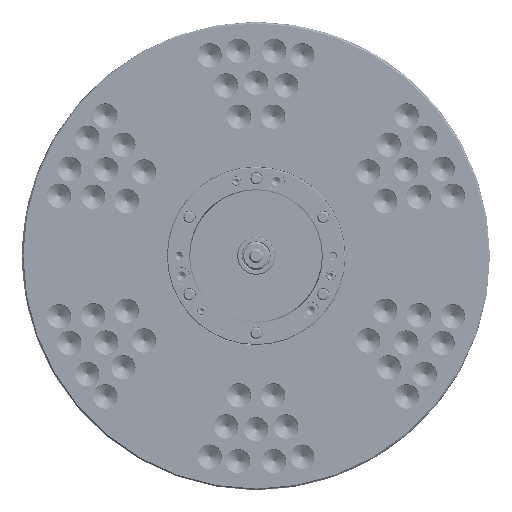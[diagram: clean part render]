
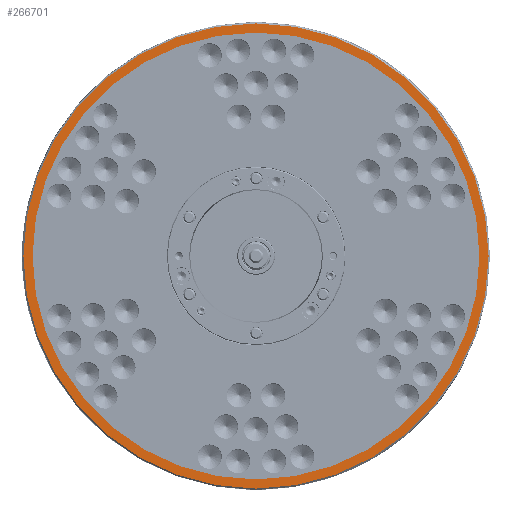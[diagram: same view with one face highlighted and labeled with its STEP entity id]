
A CAD part, left-side view. The second image highlights one B-rep face of the part: STEP entity #266701.
In plain terms, the highlighted planar face has unit normal (-1, 0, 0).
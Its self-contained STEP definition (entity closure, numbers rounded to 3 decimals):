
#12125 = EDGE_CURVE ( 'NONE', #15846, #85097, #124001, .T. ) ;
#15846 = VERTEX_POINT ( 'NONE', #209918 ) ;
#20540 = EDGE_CURVE ( 'NONE', #85097, #15846, #128362, .T. ) ;
#26814 = DIRECTION ( 'NONE',  ( 0., 0., 1. ) ) ;
#27767 = AXIS2_PLACEMENT_3D ( 'NONE', #33984, #357765, #210099 ) ;
#29655 = PLANE ( 'NONE',  #100904 ) ;
#33984 = CARTESIAN_POINT ( 'NONE',  ( -127., 0., 0. ) ) ;
#38895 = DIRECTION ( 'NONE',  ( -1., 0., 0. ) ) ;
#55942 = DIRECTION ( 'NONE',  ( -1., 0., 0. ) ) ;
#59927 = EDGE_CURVE ( 'NONE', #213263, #201382, #251319, .T. ) ;
#61008 = ORIENTED_EDGE ( 'NONE', *, *, #59927, .T. ) ;
#61808 = DIRECTION ( 'NONE',  ( 0., 0., -1. ) ) ;
#81712 = ORIENTED_EDGE ( 'NONE', *, *, #20540, .F. ) ;
#85097 = VERTEX_POINT ( 'NONE', #227856 ) ;
#96365 = CARTESIAN_POINT ( 'NONE',  ( -127., 0., -497. ) ) ;
#100904 = AXIS2_PLACEMENT_3D ( 'NONE', #116738, #118639, #61808 ) ;
#112992 = FACE_BOUND ( 'NONE', #170181, .T. ) ;
#116738 = CARTESIAN_POINT ( 'NONE',  ( -127., 497., 0. ) ) ;
#118226 = CIRCLE ( 'NONE', #136324, 497. ) ;
#118639 = DIRECTION ( 'NONE',  ( 1., 0., 0. ) ) ;
#124001 = CIRCLE ( 'NONE', #245135, 477.5 ) ;
#128362 = CIRCLE ( 'NONE', #213304, 477.5 ) ;
#134797 = DIRECTION ( 'NONE',  ( -1., 0., 0. ) ) ;
#136324 = AXIS2_PLACEMENT_3D ( 'NONE', #146734, #55942, #347558 ) ;
#146734 = CARTESIAN_POINT ( 'NONE',  ( -127., 0., 0. ) ) ;
#161848 = CARTESIAN_POINT ( 'NONE',  ( -127., 0., 0. ) ) ;
#169857 = FACE_OUTER_BOUND ( 'NONE', #366870, .T. ) ;
#170181 = EDGE_LOOP ( 'NONE', ( #81712, #178174 ) ) ;
#178174 = ORIENTED_EDGE ( 'NONE', *, *, #12125, .F. ) ;
#184665 = DIRECTION ( 'NONE',  ( 0., 0., 1. ) ) ;
#201382 = VERTEX_POINT ( 'NONE', #233396 ) ;
#209918 = CARTESIAN_POINT ( 'NONE',  ( -127., 0., -477.5 ) ) ;
#210099 = DIRECTION ( 'NONE',  ( 0., 0., 1. ) ) ;
#213263 = VERTEX_POINT ( 'NONE', #96365 ) ;
#213304 = AXIS2_PLACEMENT_3D ( 'NONE', #373370, #134797, #26814 ) ;
#227856 = CARTESIAN_POINT ( 'NONE',  ( -127., 0., 477.5 ) ) ;
#233396 = CARTESIAN_POINT ( 'NONE',  ( -127., 0., 497. ) ) ;
#245135 = AXIS2_PLACEMENT_3D ( 'NONE', #161848, #38895, #184665 ) ;
#249442 = ORIENTED_EDGE ( 'NONE', *, *, #265213, .T. ) ;
#251319 = CIRCLE ( 'NONE', #27767, 497. ) ;
#265213 = EDGE_CURVE ( 'NONE', #201382, #213263, #118226, .T. ) ;
#266701 = ADVANCED_FACE ( 'NONE', ( #112992, #169857 ), #29655, .F. ) ;
#347558 = DIRECTION ( 'NONE',  ( 0., 0., 1. ) ) ;
#357765 = DIRECTION ( 'NONE',  ( -1., 0., 0. ) ) ;
#366870 = EDGE_LOOP ( 'NONE', ( #61008, #249442 ) ) ;
#373370 = CARTESIAN_POINT ( 'NONE',  ( -127., 0., 0. ) ) ;
